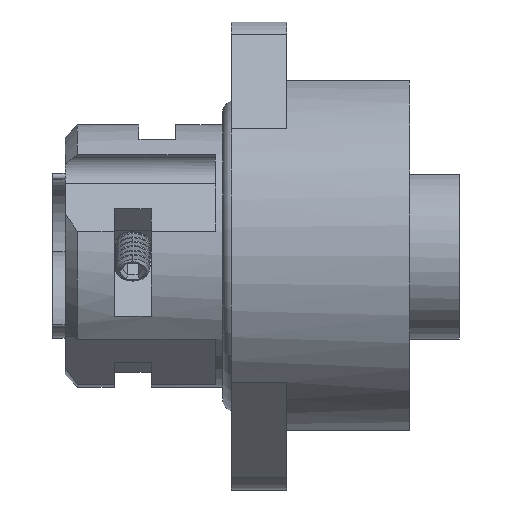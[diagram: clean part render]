
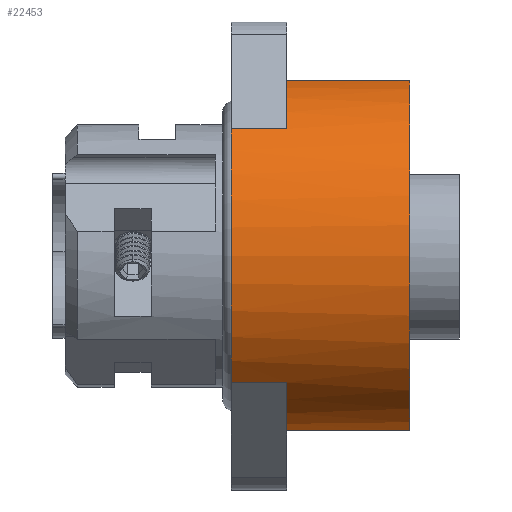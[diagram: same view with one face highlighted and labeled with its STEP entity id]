
A CAD part, top view. The second image highlights one B-rep face of the part: STEP entity #22453.
In plain terms, the highlighted cylindrical face has radius 14.5 mm (diameter 29 mm), a partial arc.
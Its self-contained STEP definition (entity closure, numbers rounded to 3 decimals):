
#168=CARTESIAN_POINT('',(14.5,0.,0.));
#169=DIRECTION('',(-1.,0.,0.));
#170=DIRECTION('',(0.,-0.98,0.2));
#171=AXIS2_PLACEMENT_3D('',#168,#169,#170);
#1387=DIRECTION('',(-1.,0.,0.));
#1388=VECTOR('',#1387,10.);
#1389=CARTESIAN_POINT('',(14.5,-14.206,2.906));
#1390=LINE('',#1389,#1388);
#1391=DIRECTION('',(1.,0.,0.));
#1392=VECTOR('',#1391,10.);
#1393=CARTESIAN_POINT('',(4.5,14.206,2.906));
#1394=LINE('',#1393,#1392);
#1395=CARTESIAN_POINT('',(4.5,0.,0.));
#1396=DIRECTION('',(1.,0.,0.));
#1397=DIRECTION('',(0.,-0.71,0.705));
#1398=AXIS2_PLACEMENT_3D('',#1395,#1396,#1397);
#1449=CARTESIAN_POINT('',(0.,0.,0.));
#1450=DIRECTION('',(1.,0.,0.));
#1451=DIRECTION('',(0.,0.71,0.705));
#1452=AXIS2_PLACEMENT_3D('',#1449,#1450,#1451);
#1520=DIRECTION('',(1.,0.,0.));
#1521=VECTOR('',#1520,4.5);
#1522=CARTESIAN_POINT('',(0.,-10.29,10.216));
#1523=LINE('',#1522,#1521);
#1553=CARTESIAN_POINT('',(4.5,0.,0.));
#1554=DIRECTION('',(1.,0.,0.));
#1555=DIRECTION('',(0.,0.98,0.2));
#1556=AXIS2_PLACEMENT_3D('',#1553,#1554,#1555);
#1581=DIRECTION('',(-1.,0.,0.));
#1582=VECTOR('',#1581,4.5);
#1583=CARTESIAN_POINT('',(4.5,10.29,10.216));
#1584=LINE('',#1583,#1582);
#18254=CARTESIAN_POINT('',(14.5,-14.206,2.906));
#18256=VERTEX_POINT('',#18254);
#18257=CARTESIAN_POINT('',(14.5,14.206,2.906));
#18258=VERTEX_POINT('',#18257);
#18618=CARTESIAN_POINT('',(4.5,-14.206,2.906));
#18619=VERTEX_POINT('',#18618);
#18632=CARTESIAN_POINT('',(4.5,14.206,2.906));
#18633=VERTEX_POINT('',#18632);
#18634=CARTESIAN_POINT('',(4.5,-10.29,10.216));
#18635=VERTEX_POINT('',#18634);
#18650=CARTESIAN_POINT('',(0.,10.29,10.216));
#18651=CARTESIAN_POINT('',(0.,-10.29,10.216));
#18652=VERTEX_POINT('',#18650);
#18653=VERTEX_POINT('',#18651);
#18682=CARTESIAN_POINT('',(4.5,10.29,10.216));
#18683=VERTEX_POINT('',#18682);
#22433=CARTESIAN_POINT('',(-0.29,0.,0.));
#22434=DIRECTION('',(1.,0.,0.));
#22435=DIRECTION('',(0.,-1.,0.));
#22436=AXIS2_PLACEMENT_3D('',#22433,#22434,#22435);
#22437=CYLINDRICAL_SURFACE('',#22436,14.5);
#22438=ORIENTED_EDGE('',*,*,#22336,.T.);
#22440=ORIENTED_EDGE('',*,*,#22439,.F.);
#22442=ORIENTED_EDGE('',*,*,#22441,.F.);
#22444=ORIENTED_EDGE('',*,*,#22443,.F.);
#22446=ORIENTED_EDGE('',*,*,#22445,.F.);
#22448=ORIENTED_EDGE('',*,*,#22447,.F.);
#22449=ORIENTED_EDGE('',*,*,#22425,.T.);
#22450=ORIENTED_EDGE('',*,*,#21742,.F.);
#22451=EDGE_LOOP('',(#22438,#22440,#22442,#22444,#22446,#22448,#22449,#22450));
#22452=FACE_OUTER_BOUND('',#22451,.F.);
#172=CIRCLE('',#171,14.5);
#1399=CIRCLE('',#1398,14.5);
#1453=CIRCLE('',#1452,14.5);
#1557=CIRCLE('',#1556,14.5);
#21742=EDGE_CURVE('',#18256,#18258,#172,.T.);
#22336=EDGE_CURVE('',#18256,#18619,#1390,.T.);
#22425=EDGE_CURVE('',#18633,#18258,#1394,.T.);
#22439=EDGE_CURVE('',#18635,#18619,#1399,.T.);
#22441=EDGE_CURVE('',#18653,#18635,#1523,.T.);
#22443=EDGE_CURVE('',#18652,#18653,#1453,.T.);
#22445=EDGE_CURVE('',#18683,#18652,#1584,.T.);
#22447=EDGE_CURVE('',#18633,#18683,#1557,.T.);
#22453=ADVANCED_FACE('',(#22452),#22437,.T.);
